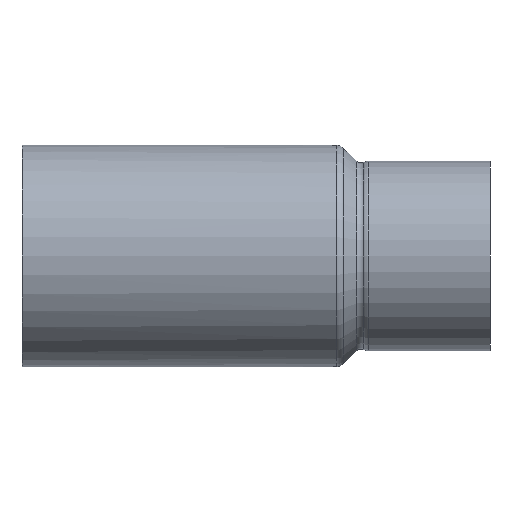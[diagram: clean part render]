
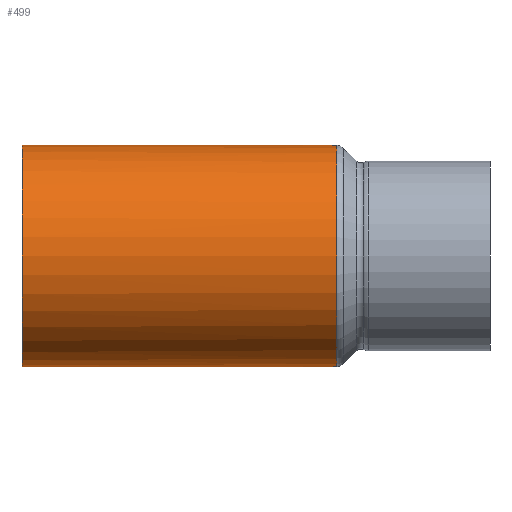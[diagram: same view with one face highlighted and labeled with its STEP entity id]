
A CAD part, front view. The second image highlights one B-rep face of the part: STEP entity #499.
In plain terms, the highlighted cylindrical face has radius 12.075 mm (diameter 24.15 mm), a full revolution.
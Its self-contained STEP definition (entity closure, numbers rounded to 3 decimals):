
#34=B_SPLINE_CURVE_WITH_KNOTS('',3,(#904,#905,#906,#907,#908,#909,#910,
#911,#912,#913,#914,#915,#916),.UNSPECIFIED.,.F.,.F.,(4,3,3,3,4),(-4.95,
-4.773,-4.596,-4.243,-4.191),
 .UNSPECIFIED.);
#35=B_SPLINE_CURVE_WITH_KNOTS('',3,(#918,#919,#920,#921,#922,#923),
 .UNSPECIFIED.,.F.,.F.,(4,1,1,4),(-0.686,-0.354,
-0.177,0.),.UNSPECIFIED.);
#36=B_SPLINE_CURVE_WITH_KNOTS('',3,(#925,#926,#927,#928,#929,#930,#931,
#932,#933),.UNSPECIFIED.,.F.,.F.,(4,1,1,1,1,1,4),(-1.788,-1.65,
-1.414,-1.061,-0.884,-0.707,
-0.686),.UNSPECIFIED.);
#37=B_SPLINE_CURVE_WITH_KNOTS('',3,(#934,#935,#936,#937,#938,#939,#940,
#941,#942,#943,#944,#945,#946,#947,#948,#949,#950,#951,#952,#953,#954,#955),
 .UNSPECIFIED.,.F.,.F.,(4,3,3,3,3,3,3,4),(-3.233,-3.064,
-2.828,-2.593,-2.357,-2.121,
-1.886,-1.788),.UNSPECIFIED.);
#57=LINE('',#957,#68);
#68=VECTOR('',#669,12.075);
#79=CYLINDRICAL_SURFACE('',#569,12.075);
#94=FACE_OUTER_BOUND('',#124,.T.);
#124=EDGE_LOOP('',(#360,#361,#362,#363,#364,#365,#366,#367,#368));
#167=CIRCLE('',#567,12.075);
#168=CIRCLE('',#568,12.075);
#169=CIRCLE('',#570,12.075);
#207=VERTEX_POINT('',#830);
#211=VERTEX_POINT('',#837);
#212=VERTEX_POINT('',#839);
#213=VERTEX_POINT('',#903);
#214=VERTEX_POINT('',#917);
#215=VERTEX_POINT('',#924);
#216=VERTEX_POINT('',#956);
#266=EDGE_CURVE('',#211,#212,#167,.T.);
#267=EDGE_CURVE('',#212,#207,#168,.T.);
#270=EDGE_CURVE('',#213,#211,#34,.T.);
#271=EDGE_CURVE('',#214,#213,#35,.T.);
#272=EDGE_CURVE('',#215,#214,#36,.T.);
#273=EDGE_CURVE('',#207,#215,#37,.T.);
#274=EDGE_CURVE('',#212,#216,#57,.T.);
#275=EDGE_CURVE('',#216,#216,#169,.T.);
#360=ORIENTED_EDGE('',*,*,#266,.F.);
#361=ORIENTED_EDGE('',*,*,#270,.F.);
#362=ORIENTED_EDGE('',*,*,#271,.F.);
#363=ORIENTED_EDGE('',*,*,#272,.F.);
#364=ORIENTED_EDGE('',*,*,#273,.F.);
#365=ORIENTED_EDGE('',*,*,#267,.F.);
#366=ORIENTED_EDGE('',*,*,#274,.T.);
#367=ORIENTED_EDGE('',*,*,#275,.T.);
#368=ORIENTED_EDGE('',*,*,#274,.F.);
#499=ADVANCED_FACE('',(#94),#79,.T.);
#567=AXIS2_PLACEMENT_3D('',#840,#663,#664);
#568=AXIS2_PLACEMENT_3D('',#841,#665,#666);
#569=AXIS2_PLACEMENT_3D('',#902,#667,#668);
#570=AXIS2_PLACEMENT_3D('',#958,#670,#671);
#663=DIRECTION('center_axis',(1.,0.,0.));
#664=DIRECTION('ref_axis',(0.,-1.,0.));
#665=DIRECTION('center_axis',(1.,0.,0.));
#666=DIRECTION('ref_axis',(0.,-1.,0.));
#667=DIRECTION('center_axis',(1.,0.,0.));
#668=DIRECTION('ref_axis',(0.,1.,0.));
#669=DIRECTION('',(-1.,0.,0.));
#670=DIRECTION('center_axis',(1.,0.,0.));
#671=DIRECTION('ref_axis',(0.,1.,0.));
#830=CARTESIAN_POINT('',(9.287,10.932,-5.125));
#837=CARTESIAN_POINT('',(9.285,10.932,5.128));
#839=CARTESIAN_POINT('',(9.286,-12.075,0.));
#840=CARTESIAN_POINT('Origin',(9.286,0.,0.));
#841=CARTESIAN_POINT('Origin',(9.286,0.,0.));
#902=CARTESIAN_POINT('Origin',(0.5,0.,0.));
#903=CARTESIAN_POINT('',(0.,8.228,8.838));
#904=CARTESIAN_POINT('Ctrl Pts',(0.,8.228,
8.838));
#905=CARTESIAN_POINT('Ctrl Pts',(0.887,8.228,8.838));
#906=CARTESIAN_POINT('Ctrl Pts',(1.777,8.318,8.756));
#907=CARTESIAN_POINT('Ctrl Pts',(2.621,8.474,8.602));
#908=CARTESIAN_POINT('Ctrl Pts',(3.466,8.631,8.447));
#909=CARTESIAN_POINT('Ctrl Pts',(4.266,8.853,8.22));
#910=CARTESIAN_POINT('Ctrl Pts',(5.014,9.101,7.936));
#911=CARTESIAN_POINT('Ctrl Pts',(6.511,9.597,7.368));
#912=CARTESIAN_POINT('Ctrl Pts',(7.801,10.191,6.572));
#913=CARTESIAN_POINT('Ctrl Pts',(8.843,10.71,5.577));
#914=CARTESIAN_POINT('Ctrl Pts',(8.996,10.786,5.431));
#915=CARTESIAN_POINT('Ctrl Pts',(9.143,10.86,5.282));
#916=CARTESIAN_POINT('Ctrl Pts',(9.284,10.932,5.128));
#917=CARTESIAN_POINT('',(-8.659,10.62,5.749));
#918=CARTESIAN_POINT('Ctrl Pts',(-8.659,10.62,5.749));
#919=CARTESIAN_POINT('Ctrl Pts',(-7.652,10.125,6.663));
#920=CARTESIAN_POINT('Ctrl Pts',(-5.77,9.271,7.794));
#921=CARTESIAN_POINT('Ctrl Pts',(-2.668,8.409,8.674));
#922=CARTESIAN_POINT('Ctrl Pts',(-0.887,8.228,8.838));
#923=CARTESIAN_POINT('Ctrl Pts',(0.,8.228,
8.838));
#924=CARTESIAN_POINT('',(-8.661,10.619,-5.747));
#925=CARTESIAN_POINT('Ctrl Pts',(-8.661,10.619,-5.747));
#926=CARTESIAN_POINT('Ctrl Pts',(-9.08,10.824,-5.367));
#927=CARTESIAN_POINT('Ctrl Pts',(-10.109,11.353,-4.259));
#928=CARTESIAN_POINT('Ctrl Pts',(-11.493,12.125,-1.686));
#929=CARTESIAN_POINT('Ctrl Pts',(-11.501,12.132,1.434));
#930=CARTESIAN_POINT('Ctrl Pts',(-10.284,11.449,3.978));
#931=CARTESIAN_POINT('Ctrl Pts',(-9.315,10.944,5.138));
#932=CARTESIAN_POINT('Ctrl Pts',(-8.724,10.651,5.69));
#933=CARTESIAN_POINT('Ctrl Pts',(-8.659,10.62,5.749));
#934=CARTESIAN_POINT('Ctrl Pts',(9.287,10.932,-5.124));
#935=CARTESIAN_POINT('Ctrl Pts',(8.825,10.696,-5.628));
#936=CARTESIAN_POINT('Ctrl Pts',(8.3,10.439,-6.088));
#937=CARTESIAN_POINT('Ctrl Pts',(7.726,10.178,-6.499));
#938=CARTESIAN_POINT('Ctrl Pts',(6.925,9.812,-7.073));
#939=CARTESIAN_POINT('Ctrl Pts',(6.027,9.437,-7.552));
#940=CARTESIAN_POINT('Ctrl Pts',(5.029,9.105,-7.931));
#941=CARTESIAN_POINT('Ctrl Pts',(4.03,8.773,-8.311));
#942=CARTESIAN_POINT('Ctrl Pts',(2.932,8.485,-8.591));
#943=CARTESIAN_POINT('Ctrl Pts',(1.774,8.34,-8.731));
#944=CARTESIAN_POINT('Ctrl Pts',(0.616,8.196,-8.872));
#945=CARTESIAN_POINT('Ctrl Pts',(-0.602,8.195,-8.871));
#946=CARTESIAN_POINT('Ctrl Pts',(-1.759,8.338,-8.733));
#947=CARTESIAN_POINT('Ctrl Pts',(-2.916,8.481,-8.594));
#948=CARTESIAN_POINT('Ctrl Pts',(-4.011,8.768,-8.318));
#949=CARTESIAN_POINT('Ctrl Pts',(-5.011,9.1,-7.938));
#950=CARTESIAN_POINT('Ctrl Pts',(-6.011,9.431,-7.559));
#951=CARTESIAN_POINT('Ctrl Pts',(-6.916,9.808,-7.076));
#952=CARTESIAN_POINT('Ctrl Pts',(-7.719,10.174,-6.503));
#953=CARTESIAN_POINT('Ctrl Pts',(-8.051,10.325,-6.267));
#954=CARTESIAN_POINT('Ctrl Pts',(-8.366,10.475,-6.014));
#955=CARTESIAN_POINT('Ctrl Pts',(-8.661,10.619,-5.747));
#956=CARTESIAN_POINT('',(-25.,-12.075,0.));
#957=CARTESIAN_POINT('',(0.5,-12.075,0.));
#958=CARTESIAN_POINT('Origin',(-25.,0.,0.));
